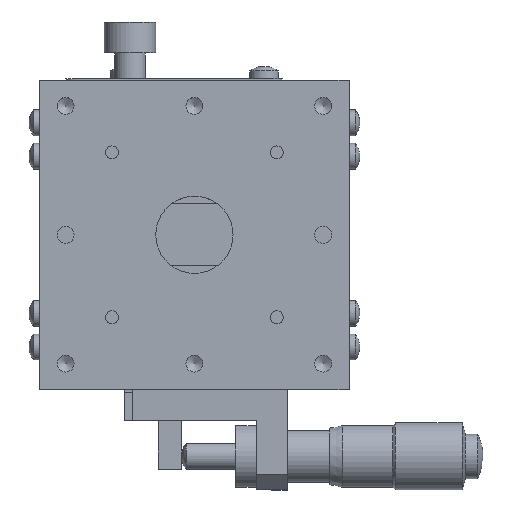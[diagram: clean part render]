
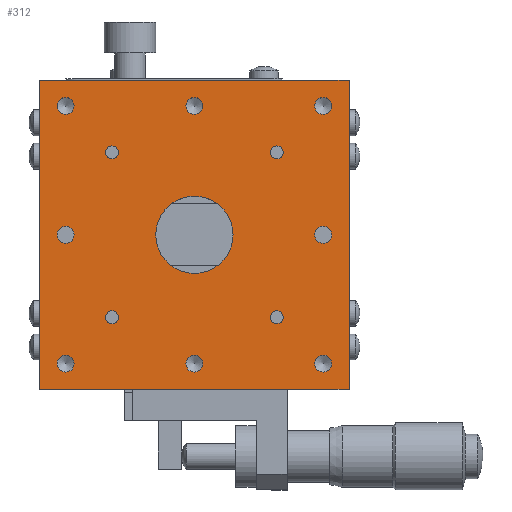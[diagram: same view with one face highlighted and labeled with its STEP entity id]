
A CAD part, top view. The second image highlights one B-rep face of the part: STEP entity #312.
In plain terms, the highlighted planar face has unit normal (0, 0, 1).
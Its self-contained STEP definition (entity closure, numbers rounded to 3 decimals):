
#312 = ADVANCED_FACE( '', ( #752, #753, #754, #755, #756, #757, #758, #759, #760, #761, #762, #763, #764, #765 ), #766, .T. );
#752 = FACE_BOUND( '', #1381, .T. );
#753 = FACE_BOUND( '', #1382, .T. );
#754 = FACE_BOUND( '', #1383, .T. );
#755 = FACE_BOUND( '', #1384, .T. );
#756 = FACE_BOUND( '', #1385, .T. );
#757 = FACE_BOUND( '', #1386, .T. );
#758 = FACE_BOUND( '', #1387, .T. );
#759 = FACE_BOUND( '', #1388, .T. );
#760 = FACE_BOUND( '', #1389, .T. );
#761 = FACE_BOUND( '', #1390, .T. );
#762 = FACE_BOUND( '', #1391, .T. );
#763 = FACE_BOUND( '', #1392, .T. );
#764 = FACE_OUTER_BOUND( '', #1393, .T. );
#765 = FACE_BOUND( '', #1394, .T. );
#766 = PLANE( '', #1395 );
#1381 = EDGE_LOOP( '', ( #2206 ) );
#1382 = EDGE_LOOP( '', ( #2207 ) );
#1383 = EDGE_LOOP( '', ( #2208 ) );
#1384 = EDGE_LOOP( '', ( #2209 ) );
#1385 = EDGE_LOOP( '', ( #2210 ) );
#1386 = EDGE_LOOP( '', ( #2211 ) );
#1387 = EDGE_LOOP( '', ( #2212 ) );
#1388 = EDGE_LOOP( '', ( #2213 ) );
#1389 = EDGE_LOOP( '', ( #2214 ) );
#1390 = EDGE_LOOP( '', ( #2215 ) );
#1391 = EDGE_LOOP( '', ( #2216 ) );
#1392 = EDGE_LOOP( '', ( #2217 ) );
#1393 = EDGE_LOOP( '', ( #2218, #2219, #2220, #2221 ) );
#1394 = EDGE_LOOP( '', ( #2222 ) );
#1395 = AXIS2_PLACEMENT_3D( '', #2223, #2224, #2225 );
#2206 = ORIENTED_EDGE( '', *, *, #3272, .T. );
#2207 = ORIENTED_EDGE( '', *, *, #3293, .T. );
#2208 = ORIENTED_EDGE( '', *, *, #3305, .T. );
#2209 = ORIENTED_EDGE( '', *, *, #3198, .T. );
#2210 = ORIENTED_EDGE( '', *, *, #3084, .T. );
#2211 = ORIENTED_EDGE( '', *, *, #3233, .T. );
#2212 = ORIENTED_EDGE( '', *, *, #3306, .T. );
#2213 = ORIENTED_EDGE( '', *, *, #3307, .T. );
#2214 = ORIENTED_EDGE( '', *, *, #3308, .T. );
#2215 = ORIENTED_EDGE( '', *, *, #3309, .T. );
#2216 = ORIENTED_EDGE( '', *, *, #3310, .T. );
#2217 = ORIENTED_EDGE( '', *, *, #3311, .T. );
#2218 = ORIENTED_EDGE( '', *, *, #3312, .F. );
#2219 = ORIENTED_EDGE( '', *, *, #3313, .F. );
#2220 = ORIENTED_EDGE( '', *, *, #3249, .F. );
#2221 = ORIENTED_EDGE( '', *, *, #3216, .F. );
#2222 = ORIENTED_EDGE( '', *, *, #3262, .F. );
#2223 = CARTESIAN_POINT( '', ( 0., 0., 20. ) );
#2224 = DIRECTION( '', ( 0., 0., 1. ) );
#2225 = DIRECTION( '', ( 0., -1., 0. ) );
#3084 = EDGE_CURVE( '', #3566, #3566, #3567, .T. );
#3198 = EDGE_CURVE( '', #3767, #3767, #3768, .T. );
#3216 = EDGE_CURVE( '', #3796, #3798, #3799, .T. );
#3233 = EDGE_CURVE( '', #3825, #3825, #3826, .T. );
#3249 = EDGE_CURVE( '', #3798, #3848, #3849, .T. );
#3262 = EDGE_CURVE( '', #3868, #3868, #3869, .T. );
#3272 = EDGE_CURVE( '', #3883, #3883, #3884, .T. );
#3293 = EDGE_CURVE( '', #3913, #3913, #3914, .T. );
#3305 = EDGE_CURVE( '', #3934, #3934, #3935, .T. );
#3306 = EDGE_CURVE( '', #3936, #3936, #3937, .T. );
#3307 = EDGE_CURVE( '', #3938, #3938, #3939, .T. );
#3308 = EDGE_CURVE( '', #3940, #3940, #3941, .T. );
#3309 = EDGE_CURVE( '', #3942, #3942, #3943, .T. );
#3310 = EDGE_CURVE( '', #3944, #3944, #3945, .T. );
#3311 = EDGE_CURVE( '', #3946, #3946, #3947, .T. );
#3312 = EDGE_CURVE( '', #3948, #3796, #3949, .T. );
#3313 = EDGE_CURVE( '', #3848, #3948, #3950, .T. );
#3566 = VERTEX_POINT( '', #4280 );
#3567 = CIRCLE( '', #4281, 1.65 );
#3767 = VERTEX_POINT( '', #4544 );
#3768 = CIRCLE( '', #4545, 1.25 );
#3796 = VERTEX_POINT( '', #4578 );
#3798 = VERTEX_POINT( '', #4581 );
#3799 = LINE( '', #4582, #4583 );
#3825 = VERTEX_POINT( '', #4616 );
#3826 = CIRCLE( '', #4617, 1.65 );
#3848 = VERTEX_POINT( '', #4643 );
#3849 = LINE( '', #4644, #4645 );
#3868 = VERTEX_POINT( '', #4671 );
#3869 = CIRCLE( '', #4672, 7.5 );
#3883 = VERTEX_POINT( '', #4690 );
#3884 = CIRCLE( '', #4691, 1.25 );
#3913 = VERTEX_POINT( '', #4731 );
#3914 = CIRCLE( '', #4732, 1.25 );
#3934 = VERTEX_POINT( '', #4760 );
#3935 = CIRCLE( '', #4761, 1.25 );
#3936 = VERTEX_POINT( '', #4762 );
#3937 = CIRCLE( '', #4763, 1.65 );
#3938 = VERTEX_POINT( '', #4764 );
#3939 = CIRCLE( '', #4765, 1.65 );
#3940 = VERTEX_POINT( '', #4766 );
#3941 = CIRCLE( '', #4767, 1.65 );
#3942 = VERTEX_POINT( '', #4768 );
#3943 = CIRCLE( '', #4769, 1.65 );
#3944 = VERTEX_POINT( '', #4770 );
#3945 = CIRCLE( '', #4771, 1.65 );
#3946 = VERTEX_POINT( '', #4772 );
#3947 = CIRCLE( '', #4773, 1.65 );
#3948 = VERTEX_POINT( '', #4774 );
#3949 = LINE( '', #4775, #4776 );
#3950 = LINE( '', #4777, #4778 );
#4280 = CARTESIAN_POINT( '', ( -25., -1.65, 20. ) );
#4281 = AXIS2_PLACEMENT_3D( '', #5196, #5197, #5198 );
#4544 = CARTESIAN_POINT( '', ( -16., -17.25, 20. ) );
#4545 = AXIS2_PLACEMENT_3D( '', #5340, #5341, #5342 );
#4578 = CARTESIAN_POINT( '', ( -30., -30., 20. ) );
#4581 = CARTESIAN_POINT( '', ( -30., 30., 20. ) );
#4582 = CARTESIAN_POINT( '', ( -30., 0., 20. ) );
#4583 = VECTOR( '', #5367, 1000. );
#4616 = CARTESIAN_POINT( '', ( -25., 23.35, 20. ) );
#4617 = AXIS2_PLACEMENT_3D( '', #5387, #5388, #5389 );
#4643 = CARTESIAN_POINT( '', ( 30., 30., 20. ) );
#4644 = CARTESIAN_POINT( '', ( 0., 30., 20. ) );
#4645 = VECTOR( '', #5406, 1000. );
#4671 = CARTESIAN_POINT( '', ( 0., -7.5, 20. ) );
#4672 = AXIS2_PLACEMENT_3D( '', #5420, #5421, #5422 );
#4690 = CARTESIAN_POINT( '', ( -16., 14.75, 20. ) );
#4691 = AXIS2_PLACEMENT_3D( '', #5433, #5434, #5435 );
#4731 = CARTESIAN_POINT( '', ( 16., 14.75, 20. ) );
#4732 = AXIS2_PLACEMENT_3D( '', #5453, #5454, #5455 );
#4760 = CARTESIAN_POINT( '', ( 16., -17.25, 20. ) );
#4761 = AXIS2_PLACEMENT_3D( '', #5467, #5468, #5469 );
#4762 = CARTESIAN_POINT( '', ( 0., 23.35, 20. ) );
#4763 = AXIS2_PLACEMENT_3D( '', #5470, #5471, #5472 );
#4764 = CARTESIAN_POINT( '', ( 25., 23.35, 20. ) );
#4765 = AXIS2_PLACEMENT_3D( '', #5473, #5474, #5475 );
#4766 = CARTESIAN_POINT( '', ( 25., -1.65, 20. ) );
#4767 = AXIS2_PLACEMENT_3D( '', #5476, #5477, #5478 );
#4768 = CARTESIAN_POINT( '', ( 25., -26.65, 20. ) );
#4769 = AXIS2_PLACEMENT_3D( '', #5479, #5480, #5481 );
#4770 = CARTESIAN_POINT( '', ( 0., -26.65, 20. ) );
#4771 = AXIS2_PLACEMENT_3D( '', #5482, #5483, #5484 );
#4772 = CARTESIAN_POINT( '', ( -25., -26.65, 20. ) );
#4773 = AXIS2_PLACEMENT_3D( '', #5485, #5486, #5487 );
#4774 = CARTESIAN_POINT( '', ( 30., -30., 20. ) );
#4775 = CARTESIAN_POINT( '', ( 0., -30., 20. ) );
#4776 = VECTOR( '', #5488, 1000. );
#4777 = CARTESIAN_POINT( '', ( 30., 0., 20. ) );
#4778 = VECTOR( '', #5489, 1000. );
#5196 = CARTESIAN_POINT( '', ( -25., 0., 20. ) );
#5197 = DIRECTION( '', ( 0., 0., -1. ) );
#5198 = DIRECTION( '', ( 0., -1., 0. ) );
#5340 = CARTESIAN_POINT( '', ( -16., -16., 20. ) );
#5341 = DIRECTION( '', ( 0., 0., -1. ) );
#5342 = DIRECTION( '', ( 0., -1., 0. ) );
#5367 = DIRECTION( '', ( 0., 1., 0. ) );
#5387 = CARTESIAN_POINT( '', ( -25., 25., 20. ) );
#5388 = DIRECTION( '', ( 0., 0., -1. ) );
#5389 = DIRECTION( '', ( 0., -1., 0. ) );
#5406 = DIRECTION( '', ( 1., 0., 0. ) );
#5420 = CARTESIAN_POINT( '', ( 0., 0., 20. ) );
#5421 = DIRECTION( '', ( 0., 0., 1. ) );
#5422 = DIRECTION( '', ( 0., -1., 0. ) );
#5433 = CARTESIAN_POINT( '', ( -16., 16., 20. ) );
#5434 = DIRECTION( '', ( 0., 0., -1. ) );
#5435 = DIRECTION( '', ( 0., -1., 0. ) );
#5453 = CARTESIAN_POINT( '', ( 16., 16., 20. ) );
#5454 = DIRECTION( '', ( 0., 0., -1. ) );
#5455 = DIRECTION( '', ( 0., -1., 0. ) );
#5467 = CARTESIAN_POINT( '', ( 16., -16., 20. ) );
#5468 = DIRECTION( '', ( 0., 0., -1. ) );
#5469 = DIRECTION( '', ( 0., -1., 0. ) );
#5470 = CARTESIAN_POINT( '', ( 0., 25., 20. ) );
#5471 = DIRECTION( '', ( 0., 0., -1. ) );
#5472 = DIRECTION( '', ( 0., -1., 0. ) );
#5473 = CARTESIAN_POINT( '', ( 25., 25., 20. ) );
#5474 = DIRECTION( '', ( 0., 0., -1. ) );
#5475 = DIRECTION( '', ( 0., -1., 0. ) );
#5476 = CARTESIAN_POINT( '', ( 25., 0., 20. ) );
#5477 = DIRECTION( '', ( 0., 0., -1. ) );
#5478 = DIRECTION( '', ( 0., -1., 0. ) );
#5479 = CARTESIAN_POINT( '', ( 25., -25., 20. ) );
#5480 = DIRECTION( '', ( 0., 0., -1. ) );
#5481 = DIRECTION( '', ( 0., -1., 0. ) );
#5482 = CARTESIAN_POINT( '', ( 0., -25., 20. ) );
#5483 = DIRECTION( '', ( 0., 0., -1. ) );
#5484 = DIRECTION( '', ( 0., -1., 0. ) );
#5485 = CARTESIAN_POINT( '', ( -25., -25., 20. ) );
#5486 = DIRECTION( '', ( 0., 0., -1. ) );
#5487 = DIRECTION( '', ( 0., -1., 0. ) );
#5488 = DIRECTION( '', ( -1., 0., 0. ) );
#5489 = DIRECTION( '', ( 0., -1., 0. ) );
